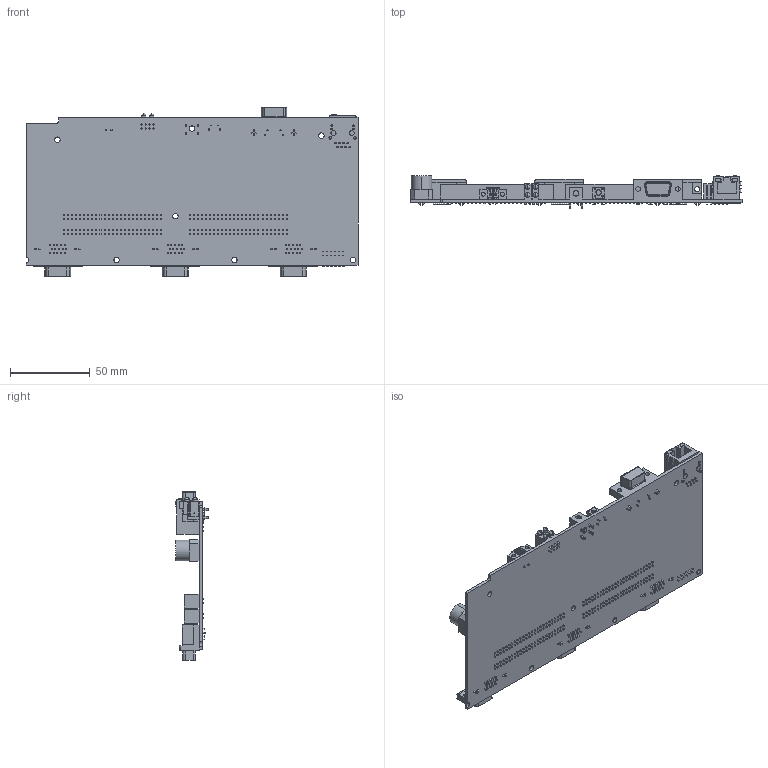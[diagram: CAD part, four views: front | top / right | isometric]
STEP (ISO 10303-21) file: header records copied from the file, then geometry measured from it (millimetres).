
FILE_DESCRIPTION((''),'2;1');
FILE_NAME('CU_SBRIO-960X','2008-07-31T',('scarrasc'),(''),'PRO/ENGINEER BY PARAMETRIC TECHNOLOGY CORPORATION, 2006300','PRO/ENGINEER BY PARAMETRIC TECHNOLOGY CORPORATION, 2006300','');
FILE_SCHEMA(('CONFIG_CONTROL_DESIGN'));
Products named in the file (1): CU_SBRIO-960X
Bounding box: 208.28 x 20.62 x 105.89 mm (x, y, z)
Volume: 79443.9 mm3; surface area: 64559.1 mm2
Topology: 1 solids, 1 shells, 3264 faces, 8031 edges, 5332 vertices
Faces by surface type: plane 2983, cylinder 241, cone 26, sphere 8, torus 6
Entity records: 94982 total; most frequent: CARTESIAN_POINT 16794, ORIENTED_EDGE 16046, DIRECTION 15091, EDGE_CURVE 8023, VECTOR 7467, LINE 7467, VERTEX_POINT 5332, EDGE_LOOP 3909
